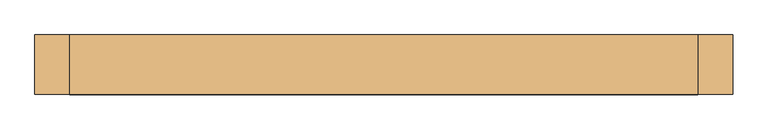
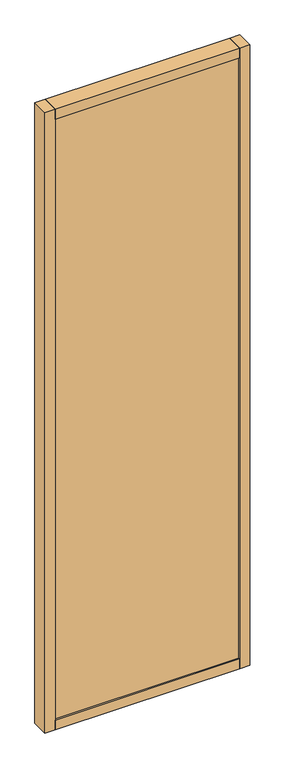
"""IFC4 building model written with IfcOpenShell, lengths in millimetres: door geometry, Mobiliário_Mobiliário de Escritório_Painel Persiana Junta Seca - DWVS e DWVD (Completo)_Marelli : DWVD."""

from ifc_helpers import new_model, si_unit, frame, origin, origin_with_axes, place, context, project, spatial, polyline, outline, extrude, source, transform, mapped, element, save


def door_c625b460(model_context):
    return source(origin(), model_context, "Body", "SweptSolid", [
        extrude(outline(polyline([(450.0, -42.5), (-450.0, -42.5), (-450.0, 42.5), (450.0, 42.5), (450.0, -42.5)])), origin_with_axes(), (0.0, 0.0, 1.0), 50.0),
        extrude(outline(polyline([(450.0, -13.6216022), (-450.0, -13.6216022), (-450.0, 11.3783978), (450.0, 11.3783978), (450.0, -13.6216022)])), frame((0.0, 0.0, 3117.0), z_axis=(0.0, 0.0, 1.0), x_axis=(1.0, 0.0, 0.0)), (0.0, 0.0, 1.0), 25.0),
        extrude(outline(polyline([(450.0, -42.5), (-450.0, -42.5), (-450.0, 42.5), (450.0, 42.5), (450.0, -42.5)])), frame((0.0, 0.0, 3150.0), z_axis=(0.0, 0.0, 1.0), x_axis=(1.0, 0.0, 0.0)), (0.0, 0.0, 1.0), 50.0),
        extrude(outline(polyline([(-500.0, 42.5), (-450.0, 42.5), (-450.0, -42.5), (-500.0, -42.5), (-500.0, 42.5)])), origin_with_axes(), (0.0, 0.0, 1.0), 3200.0),
        extrude(outline(polyline([(500.0, 42.5), (500.0, -42.5), (450.0, -42.5), (450.0, 42.5), (500.0, 42.5)])), origin_with_axes(), (0.0, 0.0, 1.0), 3200.0),
        extrude(outline(polyline([(450.0, -35.1), (-450.0, -35.1), (-450.0, -25.1), (450.0, -25.1), (450.0, -35.1)])), frame((0.0, 0.0, 50.0), z_axis=(0.0, 0.0, 1.0), x_axis=(1.0, 0.0, 0.0)), (0.0, 0.0, 1.0), 3100.0),
        extrude(outline(polyline([(450.0, 35.1), (450.0, 25.1), (-450.0, 25.1), (-450.0, 35.1), (450.0, 35.1)])), frame((0.0, 0.0, 50.0), z_axis=(0.0, 0.0, 1.0), x_axis=(1.0, 0.0, 0.0)), (0.0, 0.0, 1.0), 3100.0),
        extrude(outline(polyline([(450.0, -8.0), (-450.0, -8.0), (-450.0, 8.0), (450.0, 8.0), (450.0, -8.0)])), frame((0.0, 0.0, 1061.2), z_axis=(0.0, 0.0, 1.0), x_axis=(1.0, 0.0, 0.0)), (0.0, 0.0, 1.0), 0.8),
        extrude(outline(polyline([(450.0, -8.0), (-450.0, -8.0), (-450.0, 8.0), (450.0, 8.0), (450.0, -8.0)])), frame((0.0, 0.0, 1091.2), z_axis=(0.0, 0.0, 1.0), x_axis=(1.0, 0.0, 0.0)), (0.0, 0.0, 1.0), 0.8),
        extrude(outline(polyline([(450.0, -8.0), (-450.0, -8.0), (-450.0, 8.0), (450.0, 8.0), (450.0, -8.0)])), frame((0.0, 0.0, 1121.2), z_axis=(0.0, 0.0, 1.0), x_axis=(1.0, 0.0, 0.0)), (0.0, 0.0, 1.0), 0.8),
        extrude(outline(polyline([(450.0, -8.0), (-450.0, -8.0), (-450.0, 8.0), (450.0, 8.0), (450.0, -8.0)])), frame((0.0, 0.0, 1151.2), z_axis=(0.0, 0.0, 1.0), x_axis=(1.0, 0.0, 0.0)), (0.0, 0.0, 1.0), 0.8),
        extrude(outline(polyline([(450.0, -8.0), (-450.0, -8.0), (-450.0, 8.0), (450.0, 8.0), (450.0, -8.0)])), frame((0.0, 0.0, 1181.2), z_axis=(0.0, 0.0, 1.0), x_axis=(1.0, 0.0, 0.0)), (0.0, 0.0, 1.0), 0.8),
        extrude(outline(polyline([(450.0, -8.0), (-450.0, -8.0), (-450.0, 8.0), (450.0, 8.0), (450.0, -8.0)])), frame((0.0, 0.0, 3101.2), z_axis=(0.0, 0.0, 1.0), x_axis=(1.0, 0.0, 0.0)), (0.0, 0.0, 1.0), 0.8),
        extrude(outline(polyline([(450.0, -8.0), (-450.0, -8.0), (-450.0, 8.0), (450.0, 8.0), (450.0, -8.0)])), frame((0.0, 0.0, 3071.2), z_axis=(0.0, 0.0, 1.0), x_axis=(1.0, 0.0, 0.0)), (0.0, 0.0, 1.0), 0.8),
        extrude(outline(polyline([(450.0, -8.0), (-450.0, -8.0), (-450.0, 8.0), (450.0, 8.0), (450.0, -8.0)])), frame((0.0, 0.0, 3041.2), z_axis=(0.0, 0.0, 1.0), x_axis=(1.0, 0.0, 0.0)), (0.0, 0.0, 1.0), 0.8),
        extrude(outline(polyline([(450.0, -8.0), (-450.0, -8.0), (-450.0, 8.0), (450.0, 8.0), (450.0, -8.0)])), frame((0.0, 0.0, 3011.2), z_axis=(0.0, 0.0, 1.0), x_axis=(1.0, 0.0, 0.0)), (0.0, 0.0, 1.0), 0.8),
        extrude(outline(polyline([(450.0, -8.0), (-450.0, -8.0), (-450.0, 8.0), (450.0, 8.0), (450.0, -8.0)])), frame((0.0, 0.0, 2981.2), z_axis=(0.0, 0.0, 1.0), x_axis=(1.0, 0.0, 0.0)), (0.0, 0.0, 1.0), 0.8),
        extrude(outline(polyline([(450.0, -8.0), (-450.0, -8.0), (-450.0, 8.0), (450.0, 8.0), (450.0, -8.0)])), frame((0.0, 0.0, 2951.2), z_axis=(0.0, 0.0, 1.0), x_axis=(1.0, 0.0, 0.0)), (0.0, 0.0, 1.0), 0.8),
        extrude(outline(polyline([(450.0, -8.0), (-450.0, -8.0), (-450.0, 8.0), (450.0, 8.0), (450.0, -8.0)])), frame((0.0, 0.0, 2921.2), z_axis=(0.0, 0.0, 1.0), x_axis=(1.0, 0.0, 0.0)), (0.0, 0.0, 1.0), 0.8),
        extrude(outline(polyline([(450.0, -8.0), (-450.0, -8.0), (-450.0, 8.0), (450.0, 8.0), (450.0, -8.0)])), frame((0.0, 0.0, 2891.2), z_axis=(0.0, 0.0, 1.0), x_axis=(1.0, 0.0, 0.0)), (0.0, 0.0, 1.0), 0.8),
        extrude(outline(polyline([(450.0, -8.0), (-450.0, -8.0), (-450.0, 8.0), (450.0, 8.0), (450.0, -8.0)])), frame((0.0, 0.0, 2861.2), z_axis=(0.0, 0.0, 1.0), x_axis=(1.0, 0.0, 0.0)), (0.0, 0.0, 1.0), 0.8),
        extrude(outline(polyline([(450.0, -8.0), (-450.0, -8.0), (-450.0, 8.0), (450.0, 8.0), (450.0, -8.0)])), frame((0.0, 0.0, 2831.2), z_axis=(0.0, 0.0, 1.0), x_axis=(1.0, 0.0, 0.0)), (0.0, 0.0, 1.0), 0.8),
        extrude(outline(polyline([(450.0, -8.0), (-450.0, -8.0), (-450.0, 8.0), (450.0, 8.0), (450.0, -8.0)])), frame((0.0, 0.0, 2801.2), z_axis=(0.0, 0.0, 1.0), x_axis=(1.0, 0.0, 0.0)), (0.0, 0.0, 1.0), 0.8),
        extrude(outline(polyline([(450.0, -8.0), (-450.0, -8.0), (-450.0, 8.0), (450.0, 8.0), (450.0, -8.0)])), frame((0.0, 0.0, 2771.2), z_axis=(0.0, 0.0, 1.0), x_axis=(1.0, 0.0, 0.0)), (0.0, 0.0, 1.0), 0.8),
        extrude(outline(polyline([(450.0, -8.0), (-450.0, -8.0), (-450.0, 8.0), (450.0, 8.0), (450.0, -8.0)])), frame((0.0, 0.0, 2741.2), z_axis=(0.0, 0.0, 1.0), x_axis=(1.0, 0.0, 0.0)), (0.0, 0.0, 1.0), 0.8),
        extrude(outline(polyline([(450.0, -8.0), (-450.0, -8.0), (-450.0, 8.0), (450.0, 8.0), (450.0, -8.0)])), frame((0.0, 0.0, 2711.2), z_axis=(0.0, 0.0, 1.0), x_axis=(1.0, 0.0, 0.0)), (0.0, 0.0, 1.0), 0.8),
        extrude(outline(polyline([(450.0, -8.0), (-450.0, -8.0), (-450.0, 8.0), (450.0, 8.0), (450.0, -8.0)])), frame((0.0, 0.0, 2681.2), z_axis=(0.0, 0.0, 1.0), x_axis=(1.0, 0.0, 0.0)), (0.0, 0.0, 1.0), 0.8),
        extrude(outline(polyline([(450.0, -8.0), (-450.0, -8.0), (-450.0, 8.0), (450.0, 8.0), (450.0, -8.0)])), frame((0.0, 0.0, 2651.2), z_axis=(0.0, 0.0, 1.0), x_axis=(1.0, 0.0, 0.0)), (0.0, 0.0, 1.0), 0.8),
        extrude(outline(polyline([(450.0, -8.0), (-450.0, -8.0), (-450.0, 8.0), (450.0, 8.0), (450.0, -8.0)])), frame((0.0, 0.0, 2621.2), z_axis=(0.0, 0.0, 1.0), x_axis=(1.0, 0.0, 0.0)), (0.0, 0.0, 1.0), 0.8),
        extrude(outline(polyline([(450.0, -8.0), (-450.0, -8.0), (-450.0, 8.0), (450.0, 8.0), (450.0, -8.0)])), frame((0.0, 0.0, 2591.2), z_axis=(0.0, 0.0, 1.0), x_axis=(1.0, 0.0, 0.0)), (0.0, 0.0, 1.0), 0.8),
        extrude(outline(polyline([(450.0, -8.0), (-450.0, -8.0), (-450.0, 8.0), (450.0, 8.0), (450.0, -8.0)])), frame((0.0, 0.0, 2561.2), z_axis=(0.0, 0.0, 1.0), x_axis=(1.0, 0.0, 0.0)), (0.0, 0.0, 1.0), 0.8),
        extrude(outline(polyline([(450.0, -8.0), (-450.0, -8.0), (-450.0, 8.0), (450.0, 8.0), (450.0, -8.0)])), frame((0.0, 0.0, 2531.2), z_axis=(0.0, 0.0, 1.0), x_axis=(1.0, 0.0, 0.0)), (0.0, 0.0, 1.0), 0.8),
        extrude(outline(polyline([(450.0, -8.0), (-450.0, -8.0), (-450.0, 8.0), (450.0, 8.0), (450.0, -8.0)])), frame((0.0, 0.0, 2501.2), z_axis=(0.0, 0.0, 1.0), x_axis=(1.0, 0.0, 0.0)), (0.0, 0.0, 1.0), 0.8),
        extrude(outline(polyline([(450.0, -8.0), (-450.0, -8.0), (-450.0, 8.0), (450.0, 8.0), (450.0, -8.0)])), frame((0.0, 0.0, 2471.2), z_axis=(0.0, 0.0, 1.0), x_axis=(1.0, 0.0, 0.0)), (0.0, 0.0, 1.0), 0.8),
        extrude(outline(polyline([(450.0, -8.0), (-450.0, -8.0), (-450.0, 8.0), (450.0, 8.0), (450.0, -8.0)])), frame((0.0, 0.0, 2441.2), z_axis=(0.0, 0.0, 1.0), x_axis=(1.0, 0.0, 0.0)), (0.0, 0.0, 1.0), 0.8),
        extrude(outline(polyline([(450.0, -8.0), (-450.0, -8.0), (-450.0, 8.0), (450.0, 8.0), (450.0, -8.0)])), frame((0.0, 0.0, 2411.2), z_axis=(0.0, 0.0, 1.0), x_axis=(1.0, 0.0, 0.0)), (0.0, 0.0, 1.0), 0.8),
        extrude(outline(polyline([(450.0, -8.0), (-450.0, -8.0), (-450.0, 8.0), (450.0, 8.0), (450.0, -8.0)])), frame((0.0, 0.0, 2381.2), z_axis=(0.0, 0.0, 1.0), x_axis=(1.0, 0.0, 0.0)), (0.0, 0.0, 1.0), 0.8),
        extrude(outline(polyline([(450.0, -8.0), (-450.0, -8.0), (-450.0, 8.0), (450.0, 8.0), (450.0, -8.0)])), frame((0.0, 0.0, 2351.2), z_axis=(0.0, 0.0, 1.0), x_axis=(1.0, 0.0, 0.0)), (0.0, 0.0, 1.0), 0.8),
        extrude(outline(polyline([(450.0, -8.0), (-450.0, -8.0), (-450.0, 8.0), (450.0, 8.0), (450.0, -8.0)])), frame((0.0, 0.0, 2321.2), z_axis=(0.0, 0.0, 1.0), x_axis=(1.0, 0.0, 0.0)), (0.0, 0.0, 1.0), 0.8),
        extrude(outline(polyline([(450.0, -8.0), (-450.0, -8.0), (-450.0, 8.0), (450.0, 8.0), (450.0, -8.0)])), frame((0.0, 0.0, 2291.2), z_axis=(0.0, 0.0, 1.0), x_axis=(1.0, 0.0, 0.0)), (0.0, 0.0, 1.0), 0.8),
        extrude(outline(polyline([(450.0, -8.0), (-450.0, -8.0), (-450.0, 8.0), (450.0, 8.0), (450.0, -8.0)])), frame((0.0, 0.0, 2261.2), z_axis=(0.0, 0.0, 1.0), x_axis=(1.0, 0.0, 0.0)), (0.0, 0.0, 1.0), 0.8),
        extrude(outline(polyline([(450.0, -8.0), (-450.0, -8.0), (-450.0, 8.0), (450.0, 8.0), (450.0, -8.0)])), frame((0.0, 0.0, 2231.2), z_axis=(0.0, 0.0, 1.0), x_axis=(1.0, 0.0, 0.0)), (0.0, 0.0, 1.0), 0.8),
        extrude(outline(polyline([(450.0, -8.0), (-450.0, -8.0), (-450.0, 8.0), (450.0, 8.0), (450.0, -8.0)])), frame((0.0, 0.0, 2201.2), z_axis=(0.0, 0.0, 1.0), x_axis=(1.0, 0.0, 0.0)), (0.0, 0.0, 1.0), 0.8),
        extrude(outline(polyline([(450.0, -8.0), (-450.0, -8.0), (-450.0, 8.0), (450.0, 8.0), (450.0, -8.0)])), frame((0.0, 0.0, 2171.2), z_axis=(0.0, 0.0, 1.0), x_axis=(1.0, 0.0, 0.0)), (0.0, 0.0, 1.0), 0.8),
        extrude(outline(polyline([(450.0, -8.0), (-450.0, -8.0), (-450.0, 8.0), (450.0, 8.0), (450.0, -8.0)])), frame((0.0, 0.0, 2141.2), z_axis=(0.0, 0.0, 1.0), x_axis=(1.0, 0.0, 0.0)), (0.0, 0.0, 1.0), 0.8),
        extrude(outline(polyline([(450.0, -8.0), (-450.0, -8.0), (-450.0, 8.0), (450.0, 8.0), (450.0, -8.0)])), frame((0.0, 0.0, 2111.2), z_axis=(0.0, 0.0, 1.0), x_axis=(1.0, 0.0, 0.0)), (0.0, 0.0, 1.0), 0.8),
        extrude(outline(polyline([(450.0, -8.0), (-450.0, -8.0), (-450.0, 8.0), (450.0, 8.0), (450.0, -8.0)])), frame((0.0, 0.0, 2081.2), z_axis=(0.0, 0.0, 1.0), x_axis=(1.0, 0.0, 0.0)), (0.0, 0.0, 1.0), 0.8),
        extrude(outline(polyline([(450.0, -8.0), (-450.0, -8.0), (-450.0, 8.0), (450.0, 8.0), (450.0, -8.0)])), frame((0.0, 0.0, 2051.2), z_axis=(0.0, 0.0, 1.0), x_axis=(1.0, 0.0, 0.0)), (0.0, 0.0, 1.0), 0.8),
        extrude(outline(polyline([(450.0, -8.0), (-450.0, -8.0), (-450.0, 8.0), (450.0, 8.0), (450.0, -8.0)])), frame((0.0, 0.0, 2021.2), z_axis=(0.0, 0.0, 1.0), x_axis=(1.0, 0.0, 0.0)), (0.0, 0.0, 1.0), 0.8),
        extrude(outline(polyline([(450.0, -8.0), (-450.0, -8.0), (-450.0, 8.0), (450.0, 8.0), (450.0, -8.0)])), frame((0.0, 0.0, 1991.2), z_axis=(0.0, 0.0, 1.0), x_axis=(1.0, 0.0, 0.0)), (0.0, 0.0, 1.0), 0.8),
        extrude(outline(polyline([(450.0, -8.0), (-450.0, -8.0), (-450.0, 8.0), (450.0, 8.0), (450.0, -8.0)])), frame((0.0, 0.0, 1961.2), z_axis=(0.0, 0.0, 1.0), x_axis=(1.0, 0.0, 0.0)), (0.0, 0.0, 1.0), 0.8),
        extrude(outline(polyline([(450.0, -8.0), (-450.0, -8.0), (-450.0, 8.0), (450.0, 8.0), (450.0, -8.0)])), frame((0.0, 0.0, 1931.2), z_axis=(0.0, 0.0, 1.0), x_axis=(1.0, 0.0, 0.0)), (0.0, 0.0, 1.0), 0.8),
        extrude(outline(polyline([(450.0, -8.0), (-450.0, -8.0), (-450.0, 8.0), (450.0, 8.0), (450.0, -8.0)])), frame((0.0, 0.0, 1901.2), z_axis=(0.0, 0.0, 1.0), x_axis=(1.0, 0.0, 0.0)), (0.0, 0.0, 1.0), 0.8),
        extrude(outline(polyline([(450.0, -8.0), (-450.0, -8.0), (-450.0, 8.0), (450.0, 8.0), (450.0, -8.0)])), frame((0.0, 0.0, 1871.2), z_axis=(0.0, 0.0, 1.0), x_axis=(1.0, 0.0, 0.0)), (0.0, 0.0, 1.0), 0.8),
        extrude(outline(polyline([(450.0, -8.0), (-450.0, -8.0), (-450.0, 8.0), (450.0, 8.0), (450.0, -8.0)])), frame((0.0, 0.0, 1841.2), z_axis=(0.0, 0.0, 1.0), x_axis=(1.0, 0.0, 0.0)), (0.0, 0.0, 1.0), 0.8),
        extrude(outline(polyline([(450.0, -8.0), (-450.0, -8.0), (-450.0, 8.0), (450.0, 8.0), (450.0, -8.0)])), frame((0.0, 0.0, 1811.2), z_axis=(0.0, 0.0, 1.0), x_axis=(1.0, 0.0, 0.0)), (0.0, 0.0, 1.0), 0.8),
        extrude(outline(polyline([(450.0, -8.0), (-450.0, -8.0), (-450.0, 8.0), (450.0, 8.0), (450.0, -8.0)])), frame((0.0, 0.0, 1511.2), z_axis=(0.0, 0.0, 1.0), x_axis=(1.0, 0.0, 0.0)), (0.0, 0.0, 1.0), 0.8),
        extrude(outline(polyline([(450.0, -8.0), (-450.0, -8.0), (-450.0, 8.0), (450.0, 8.0), (450.0, -8.0)])), frame((0.0, 0.0, 1541.2), z_axis=(0.0, 0.0, 1.0), x_axis=(1.0, 0.0, 0.0)), (0.0, 0.0, 1.0), 0.8),
        extrude(outline(polyline([(450.0, -8.0), (-450.0, -8.0), (-450.0, 8.0), (450.0, 8.0), (450.0, -8.0)])), frame((0.0, 0.0, 1571.2), z_axis=(0.0, 0.0, 1.0), x_axis=(1.0, 0.0, 0.0)), (0.0, 0.0, 1.0), 0.8),
        extrude(outline(polyline([(450.0, -8.0), (-450.0, -8.0), (-450.0, 8.0), (450.0, 8.0), (450.0, -8.0)])), frame((0.0, 0.0, 1601.2), z_axis=(0.0, 0.0, 1.0), x_axis=(1.0, 0.0, 0.0)), (0.0, 0.0, 1.0), 0.8),
        extrude(outline(polyline([(450.0, -8.0), (-450.0, -8.0), (-450.0, 8.0), (450.0, 8.0), (450.0, -8.0)])), frame((0.0, 0.0, 1631.2), z_axis=(0.0, 0.0, 1.0), x_axis=(1.0, 0.0, 0.0)), (0.0, 0.0, 1.0), 0.8),
        extrude(outline(polyline([(450.0, -8.0), (-450.0, -8.0), (-450.0, 8.0), (450.0, 8.0), (450.0, -8.0)])), frame((0.0, 0.0, 1661.2), z_axis=(0.0, 0.0, 1.0), x_axis=(1.0, 0.0, 0.0)), (0.0, 0.0, 1.0), 0.8),
        extrude(outline(polyline([(450.0, -8.0), (-450.0, -8.0), (-450.0, 8.0), (450.0, 8.0), (450.0, -8.0)])), frame((0.0, 0.0, 1691.2), z_axis=(0.0, 0.0, 1.0), x_axis=(1.0, 0.0, 0.0)), (0.0, 0.0, 1.0), 0.8),
        extrude(outline(polyline([(450.0, -8.0), (-450.0, -8.0), (-450.0, 8.0), (450.0, 8.0), (450.0, -8.0)])), frame((0.0, 0.0, 1721.2), z_axis=(0.0, 0.0, 1.0), x_axis=(1.0, 0.0, 0.0)), (0.0, 0.0, 1.0), 0.8),
        extrude(outline(polyline([(450.0, -8.0), (-450.0, -8.0), (-450.0, 8.0), (450.0, 8.0), (450.0, -8.0)])), frame((0.0, 0.0, 1751.2), z_axis=(0.0, 0.0, 1.0), x_axis=(1.0, 0.0, 0.0)), (0.0, 0.0, 1.0), 0.8),
        extrude(outline(polyline([(450.0, -8.0), (-450.0, -8.0), (-450.0, 8.0), (450.0, 8.0), (450.0, -8.0)])), frame((0.0, 0.0, 1781.2), z_axis=(0.0, 0.0, 1.0), x_axis=(1.0, 0.0, 0.0)), (0.0, 0.0, 1.0), 0.8),
        extrude(outline(polyline([(450.0, -8.0), (-450.0, -8.0), (-450.0, 8.0), (450.0, 8.0), (450.0, -8.0)])), frame((0.0, 0.0, 1211.2), z_axis=(0.0, 0.0, 1.0), x_axis=(1.0, 0.0, 0.0)), (0.0, 0.0, 1.0), 0.8),
        extrude(outline(polyline([(450.0, -8.0), (-450.0, -8.0), (-450.0, 8.0), (450.0, 8.0), (450.0, -8.0)])), frame((0.0, 0.0, 1481.2), z_axis=(0.0, 0.0, 1.0), x_axis=(1.0, 0.0, 0.0)), (0.0, 0.0, 1.0), 0.8),
        extrude(outline(polyline([(450.0, -8.0), (-450.0, -8.0), (-450.0, 8.0), (450.0, 8.0), (450.0, -8.0)])), frame((0.0, 0.0, 1451.2), z_axis=(0.0, 0.0, 1.0), x_axis=(1.0, 0.0, 0.0)), (0.0, 0.0, 1.0), 0.8),
        extrude(outline(polyline([(450.0, -8.0), (-450.0, -8.0), (-450.0, 8.0), (450.0, 8.0), (450.0, -8.0)])), frame((0.0, 0.0, 1421.2), z_axis=(0.0, 0.0, 1.0), x_axis=(1.0, 0.0, 0.0)), (0.0, 0.0, 1.0), 0.8),
        extrude(outline(polyline([(450.0, -8.0), (-450.0, -8.0), (-450.0, 8.0), (450.0, 8.0), (450.0, -8.0)])), frame((0.0, 0.0, 1391.2), z_axis=(0.0, 0.0, 1.0), x_axis=(1.0, 0.0, 0.0)), (0.0, 0.0, 1.0), 0.8),
        extrude(outline(polyline([(450.0, -8.0), (-450.0, -8.0), (-450.0, 8.0), (450.0, 8.0), (450.0, -8.0)])), frame((0.0, 0.0, 1361.2), z_axis=(0.0, 0.0, 1.0), x_axis=(1.0, 0.0, 0.0)), (0.0, 0.0, 1.0), 0.8),
        extrude(outline(polyline([(450.0, -8.0), (-450.0, -8.0), (-450.0, 8.0), (450.0, 8.0), (450.0, -8.0)])), frame((0.0, 0.0, 1331.2), z_axis=(0.0, 0.0, 1.0), x_axis=(1.0, 0.0, 0.0)), (0.0, 0.0, 1.0), 0.8),
        extrude(outline(polyline([(450.0, -8.0), (-450.0, -8.0), (-450.0, 8.0), (450.0, 8.0), (450.0, -8.0)])), frame((0.0, 0.0, 1301.2), z_axis=(0.0, 0.0, 1.0), x_axis=(1.0, 0.0, 0.0)), (0.0, 0.0, 1.0), 0.8),
        extrude(outline(polyline([(450.0, -8.0), (-450.0, -8.0), (-450.0, 8.0), (450.0, 8.0), (450.0, -8.0)])), frame((0.0, 0.0, 1271.2), z_axis=(0.0, 0.0, 1.0), x_axis=(1.0, 0.0, 0.0)), (0.0, 0.0, 1.0), 0.8),
        extrude(outline(polyline([(450.0, -8.0), (-450.0, -8.0), (-450.0, 8.0), (450.0, 8.0), (450.0, -8.0)])), frame((0.0, 0.0, 1241.2), z_axis=(0.0, 0.0, 1.0), x_axis=(1.0, 0.0, 0.0)), (0.0, 0.0, 1.0), 0.8),
    ])


if __name__ == "__main__":
    model = new_model("IFC4")
    model_context = context("Model", 3, world=origin())
    ifc_project = project(units=[si_unit("LENGTHUNIT", "METRE", prefix="MILLI")], contexts=[model_context])
    site = spatial("IfcSite", under=ifc_project)
    building = spatial("IfcBuilding", under=site)
    placement = place(None, origin())
    door_shape = door_c625b460(model_context)
    element("IfcDoor", 1, ObjectType="Mobiliário_Mobiliário de Escritório_Painel Persiana Junta Seca - DWVS e DWVD (Completo)_Marelli : DWVD", at=placement, inside=building, context=model_context, shape_type="MappedRepresentation", body=[
        mapped(door_shape, transform((0.0, 0.0, 0.0), x_axis=(1.0, 0.0, 0.0), y_axis=(0.0, 1.0, 0.0), z_axis=(0.0, 0.0, 1.0))),
    ])
    save(model, "model.ifc")
